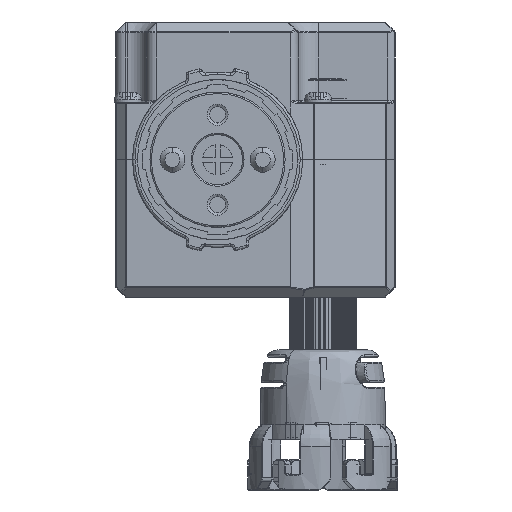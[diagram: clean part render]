
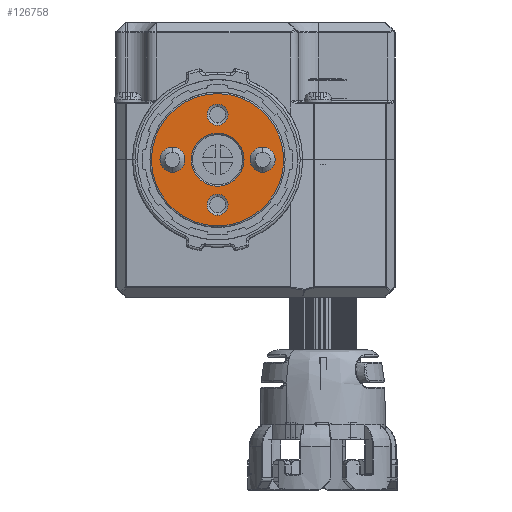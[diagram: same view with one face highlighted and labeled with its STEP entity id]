
A CAD part, front view. The second image highlights one B-rep face of the part: STEP entity #126758.
In plain terms, the highlighted planar face has unit normal (0, -1, 0).
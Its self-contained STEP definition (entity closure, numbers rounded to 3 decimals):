
#149 = DIRECTION ( 'NONE',  ( 0., -1., 0. ) ) ;
#196 = VERTEX_POINT ( 'NONE', #95243 ) ;
#512 = DIRECTION ( 'NONE',  ( 0., -1., 0. ) ) ;
#1346 = VERTEX_POINT ( 'NONE', #88433 ) ;
#5491 = AXIS2_PLACEMENT_3D ( 'NONE', #82344, #60620, #59722 ) ;
#6112 = DIRECTION ( 'NONE',  ( 0., 0., 1. ) ) ;
#7266 = EDGE_CURVE ( 'NONE', #115819, #196, #26741, .T. ) ;
#7434 = CARTESIAN_POINT ( 'NONE',  ( -18.814, -449.219, 88.126 ) ) ;
#8516 = EDGE_CURVE ( 'NONE', #38328, #56896, #63560, .T. ) ;
#8922 = FACE_BOUND ( 'NONE', #130795, .T. ) ;
#13005 = CIRCLE ( 'NONE', #36185, 2.5 ) ;
#14442 = EDGE_LOOP ( 'NONE', ( #120853, #47891 ) ) ;
#14560 = EDGE_CURVE ( 'NONE', #196, #115819, #117697, .T. ) ;
#15037 = CARTESIAN_POINT ( 'NONE',  ( -27.814, -449.219, 90.626 ) ) ;
#16095 = DIRECTION ( 'NONE',  ( 0., 0., 1. ) ) ;
#17324 = DIRECTION ( 'NONE',  ( 0., 0., 1. ) ) ;
#18148 = VERTEX_POINT ( 'NONE', #72962 ) ;
#18650 = CARTESIAN_POINT ( 'NONE',  ( -27.814, -449.219, 90.626 ) ) ;
#19238 = DIRECTION ( 'NONE',  ( 0., 1., 0. ) ) ;
#20937 = CARTESIAN_POINT ( 'NONE',  ( -36.814, -449.219, 88.126 ) ) ;
#21067 = DIRECTION ( 'NONE',  ( 0., -1., 0. ) ) ;
#21465 = AXIS2_PLACEMENT_3D ( 'NONE', #133690, #21067, #71705 ) ;
#21627 = ORIENTED_EDGE ( 'NONE', *, *, #14560, .T. ) ;
#22506 = EDGE_CURVE ( 'NONE', #1346, #88600, #56058, .T. ) ;
#22729 = EDGE_CURVE ( 'NONE', #18148, #107525, #107696, .T. ) ;
#24079 = DIRECTION ( 'NONE',  ( 0., 0., 1. ) ) ;
#26741 = CIRCLE ( 'NONE', #117429, 13.2 ) ;
#29316 = DIRECTION ( 'NONE',  ( 0., 0., 1. ) ) ;
#31969 = DIRECTION ( 'NONE',  ( 0., 0., 1. ) ) ;
#32002 = EDGE_CURVE ( 'NONE', #70802, #95143, #73896, .T. ) ;
#33547 = AXIS2_PLACEMENT_3D ( 'NONE', #82168, #114723, #31969 ) ;
#36185 = AXIS2_PLACEMENT_3D ( 'NONE', #114419, #512, #72779 ) ;
#36380 = FACE_BOUND ( 'NONE', #93620, .T. ) ;
#36518 = FACE_BOUND ( 'NONE', #14442, .T. ) ;
#38328 = VERTEX_POINT ( 'NONE', #7434 ) ;
#38747 = CIRCLE ( 'NONE', #45899, 2.5 ) ;
#39342 = DIRECTION ( 'NONE',  ( 0., 0., 1. ) ) ;
#39748 = CARTESIAN_POINT ( 'NONE',  ( -27.814, -449.219, 83.726 ) ) ;
#40174 = PLANE ( 'NONE',  #89248 ) ;
#45899 = AXIS2_PLACEMENT_3D ( 'NONE', #61992, #149, #72419 ) ;
#46635 = EDGE_LOOP ( 'NONE', ( #21627, #83763 ) ) ;
#47785 = CARTESIAN_POINT ( 'NONE',  ( -36.814, -449.219, 90.626 ) ) ;
#47891 = ORIENTED_EDGE ( 'NONE', *, *, #119554, .F. ) ;
#49212 = CARTESIAN_POINT ( 'NONE',  ( -27.814, -449.219, 90.626 ) ) ;
#50029 = DIRECTION ( 'NONE',  ( 0., 0., 1. ) ) ;
#50831 = DIRECTION ( 'NONE',  ( 0., 0., 1. ) ) ;
#51520 = DIRECTION ( 'NONE',  ( 0., 1., 0. ) ) ;
#53016 = ORIENTED_EDGE ( 'NONE', *, *, #117948, .F. ) ;
#56058 = CIRCLE ( 'NONE', #33547, 5.3 ) ;
#56896 = VERTEX_POINT ( 'NONE', #111607 ) ;
#59343 = CARTESIAN_POINT ( 'NONE',  ( -36.814, -449.219, 93.126 ) ) ;
#59722 = DIRECTION ( 'NONE',  ( 0., 0., 1. ) ) ;
#60620 = DIRECTION ( 'NONE',  ( 0., 1., 0. ) ) ;
#60973 = CARTESIAN_POINT ( 'NONE',  ( -27.814, -449.219, 101.726 ) ) ;
#61355 = CARTESIAN_POINT ( 'NONE',  ( -27.814, -449.219, 79.526 ) ) ;
#61427 = CARTESIAN_POINT ( 'NONE',  ( -27.814, -449.219, 81.626 ) ) ;
#61992 = CARTESIAN_POINT ( 'NONE',  ( -36.814, -449.219, 90.626 ) ) ;
#62432 = CARTESIAN_POINT ( 'NONE',  ( -27.814, -449.219, 77.426 ) ) ;
#62436 = EDGE_LOOP ( 'NONE', ( #122427, #53016 ) ) ;
#63560 = CIRCLE ( 'NONE', #74164, 2.5 ) ;
#65997 = ORIENTED_EDGE ( 'NONE', *, *, #107545, .T. ) ;
#66409 = AXIS2_PLACEMENT_3D ( 'NONE', #66710, #76215, #16095 ) ;
#66710 = CARTESIAN_POINT ( 'NONE',  ( -27.814, -449.219, 99.626 ) ) ;
#67110 = FACE_BOUND ( 'NONE', #70208, .T. ) ;
#70208 = EDGE_LOOP ( 'NONE', ( #127507, #119948 ) ) ;
#70802 = VERTEX_POINT ( 'NONE', #20937 ) ;
#71037 = AXIS2_PLACEMENT_3D ( 'NONE', #72929, #19238, #50831 ) ;
#71705 = DIRECTION ( 'NONE',  ( 0., 0., 1. ) ) ;
#72419 = DIRECTION ( 'NONE',  ( 0., 0., 1. ) ) ;
#72779 = DIRECTION ( 'NONE',  ( 0., 0., 1. ) ) ;
#72929 = CARTESIAN_POINT ( 'NONE',  ( -27.814, -449.219, 99.626 ) ) ;
#72962 = CARTESIAN_POINT ( 'NONE',  ( -27.814, -449.219, 97.526 ) ) ;
#73896 = CIRCLE ( 'NONE', #83868, 2.5 ) ;
#74164 = AXIS2_PLACEMENT_3D ( 'NONE', #88782, #120937, #6112 ) ;
#74962 = ORIENTED_EDGE ( 'NONE', *, *, #22506, .T. ) ;
#76215 = DIRECTION ( 'NONE',  ( 0., 1., 0. ) ) ;
#82168 = CARTESIAN_POINT ( 'NONE',  ( -27.814, -449.219, 90.626 ) ) ;
#82344 = CARTESIAN_POINT ( 'NONE',  ( -27.814, -449.219, 81.626 ) ) ;
#83763 = ORIENTED_EDGE ( 'NONE', *, *, #7266, .T. ) ;
#83868 = AXIS2_PLACEMENT_3D ( 'NONE', #47785, #131900, #50029 ) ;
#88433 = CARTESIAN_POINT ( 'NONE',  ( -27.814, -449.219, 85.326 ) ) ;
#88600 = VERTEX_POINT ( 'NONE', #117234 ) ;
#88782 = CARTESIAN_POINT ( 'NONE',  ( -18.814, -449.219, 90.626 ) ) ;
#88827 = AXIS2_PLACEMENT_3D ( 'NONE', #61427, #51520, #39342 ) ;
#88891 = CIRCLE ( 'NONE', #97980, 5.3 ) ;
#89248 = AXIS2_PLACEMENT_3D ( 'NONE', #49212, #91252, #29316 ) ;
#91252 = DIRECTION ( 'NONE',  ( 0., -1., 0. ) ) ;
#93620 = EDGE_LOOP ( 'NONE', ( #107471, #74962 ) ) ;
#94401 = VERTEX_POINT ( 'NONE', #39748 ) ;
#95143 = VERTEX_POINT ( 'NONE', #59343 ) ;
#95243 = CARTESIAN_POINT ( 'NONE',  ( -27.814, -449.219, 103.826 ) ) ;
#96953 = EDGE_CURVE ( 'NONE', #94401, #126894, #97118, .T. ) ;
#97118 = CIRCLE ( 'NONE', #5491, 2.1 ) ;
#97980 = AXIS2_PLACEMENT_3D ( 'NONE', #18650, #100893, #17324 ) ;
#98024 = FACE_OUTER_BOUND ( 'NONE', #46635, .T. ) ;
#99048 = CIRCLE ( 'NONE', #71037, 2.1 ) ;
#100893 = DIRECTION ( 'NONE',  ( 0., 1., 0. ) ) ;
#103411 = EDGE_CURVE ( 'NONE', #88600, #1346, #88891, .T. ) ;
#107241 = DIRECTION ( 'NONE',  ( 0., -1., 0. ) ) ;
#107471 = ORIENTED_EDGE ( 'NONE', *, *, #103411, .T. ) ;
#107525 = VERTEX_POINT ( 'NONE', #60973 ) ;
#107545 = EDGE_CURVE ( 'NONE', #126894, #94401, #128642, .T. ) ;
#107696 = CIRCLE ( 'NONE', #66409, 2.1 ) ;
#111607 = CARTESIAN_POINT ( 'NONE',  ( -18.814, -449.219, 93.126 ) ) ;
#114419 = CARTESIAN_POINT ( 'NONE',  ( -18.814, -449.219, 90.626 ) ) ;
#114723 = DIRECTION ( 'NONE',  ( 0., 1., 0. ) ) ;
#115819 = VERTEX_POINT ( 'NONE', #62432 ) ;
#117234 = CARTESIAN_POINT ( 'NONE',  ( -27.814, -449.219, 95.926 ) ) ;
#117429 = AXIS2_PLACEMENT_3D ( 'NONE', #15037, #107241, #24079 ) ;
#117697 = CIRCLE ( 'NONE', #21465, 13.2 ) ;
#117948 = EDGE_CURVE ( 'NONE', #56896, #38328, #13005, .T. ) ;
#119554 = EDGE_CURVE ( 'NONE', #95143, #70802, #38747, .T. ) ;
#119948 = ORIENTED_EDGE ( 'NONE', *, *, #22729, .T. ) ;
#120853 = ORIENTED_EDGE ( 'NONE', *, *, #32002, .F. ) ;
#120937 = DIRECTION ( 'NONE',  ( 0., -1., 0. ) ) ;
#122310 = FACE_BOUND ( 'NONE', #62436, .T. ) ;
#122427 = ORIENTED_EDGE ( 'NONE', *, *, #8516, .F. ) ;
#124893 = EDGE_CURVE ( 'NONE', #107525, #18148, #99048, .T. ) ;
#126758 = ADVANCED_FACE ( 'NONE', ( #36380, #67110, #8922, #36518, #122310, #98024 ), #40174, .T. ) ;
#126894 = VERTEX_POINT ( 'NONE', #61355 ) ;
#127507 = ORIENTED_EDGE ( 'NONE', *, *, #124893, .T. ) ;
#128642 = CIRCLE ( 'NONE', #88827, 2.1 ) ;
#130795 = EDGE_LOOP ( 'NONE', ( #133927, #65997 ) ) ;
#131900 = DIRECTION ( 'NONE',  ( 0., -1., 0. ) ) ;
#133690 = CARTESIAN_POINT ( 'NONE',  ( -27.814, -449.219, 90.626 ) ) ;
#133927 = ORIENTED_EDGE ( 'NONE', *, *, #96953, .T. ) ;
